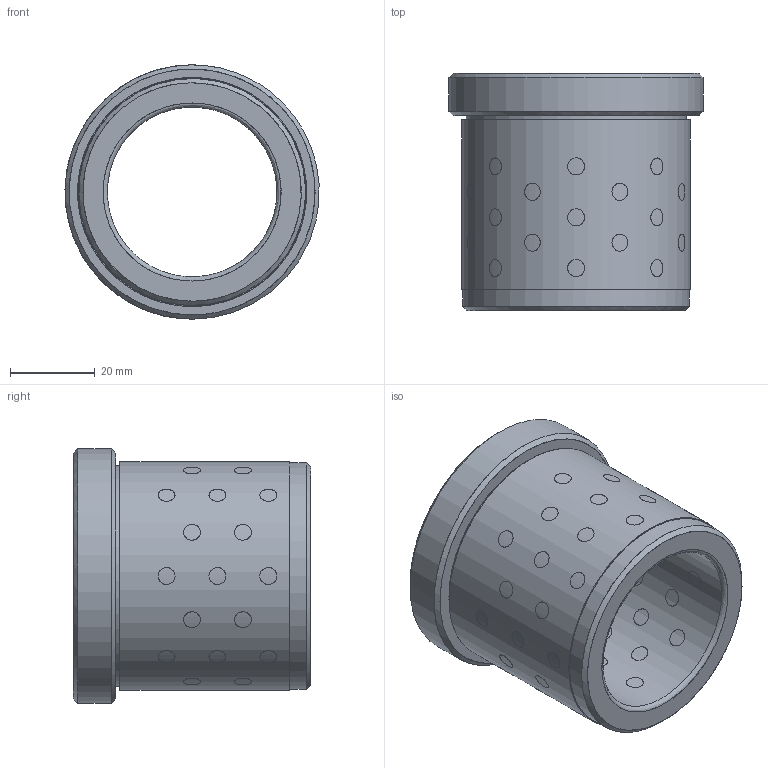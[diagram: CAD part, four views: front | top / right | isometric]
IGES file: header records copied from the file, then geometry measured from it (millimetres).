
Start section: Missler Software BP 521, 31674 Labege Cedex, France Tel   : +33 (0)5 61 00 03 00 Fax   : +33 (0)5 61 00 03 03 Email : sup.topsolid@topsolid.com
Global section: file name: D:\Cuma\D30.05\D30.05_4056.igs; native system: TopSolid v605250 Missler Software; preprocessor: IGES preprocessor v100000; date: 030120.204743; units: millimetre
Bounding box: 59.93 x 56 x 60 mm (x, y, z)
Surface area: 26037.9 mm2 (no closed solid volume)
Topology: 0 solids, 0 shells, 183 faces, 3604 edges, 3484 vertices
Faces by surface type: bspline 183
